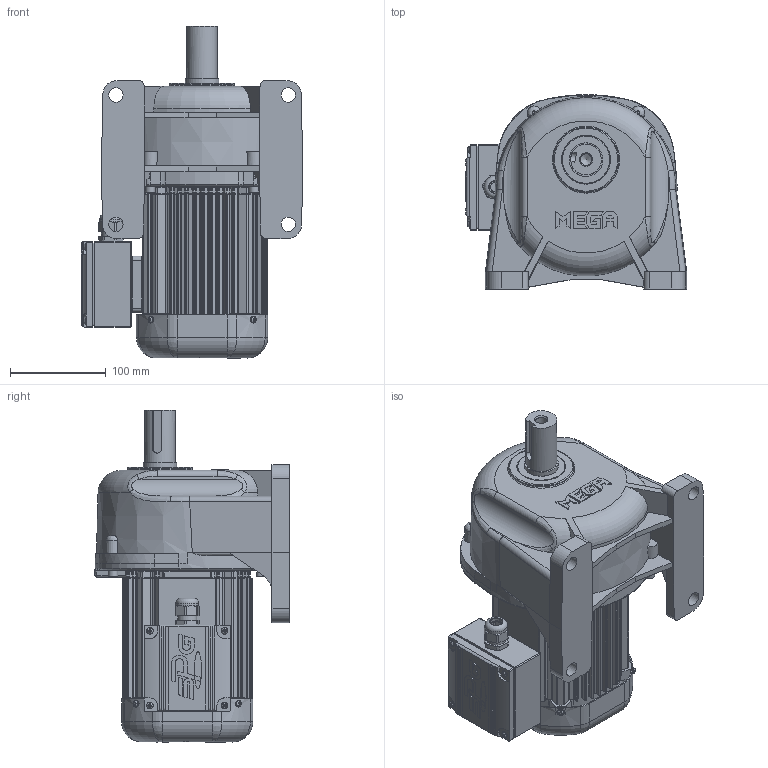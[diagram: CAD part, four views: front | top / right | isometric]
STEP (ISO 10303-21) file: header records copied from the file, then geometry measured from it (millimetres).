
FILE_DESCRIPTION(/* description */ (''),/* implementation_level */ '2;1');
FILE_NAME(/* name */ 'Z:\동력 3D 파일\PML135-(90~200)-MA(B)040[ ]L_(3D).stp',/* time_stamp */ '2021-08-17T16:50:15+09:00',/* author */ ('jaebok'),/* organization */ (''),/* preprocessor_version */ 'ST-DEVELOPER v18.1',/* originating_system */ 'Autodesk Inventor 2022',/* authorisation */ '');
FILE_SCHEMA (('AUTOMOTIVE_DESIGN { 1 0 10303 214 3 1 1 }'));
Length unit declared in the file: millimetre
Products named in the file (1): 부품6
Bounding box: 231 x 202.97 x 346.5 mm (x, y, z)
Volume: 2192277.1 mm3; surface area: 655853.9 mm2
Topology: 1 solids, 31 shells, 3240 faces, 8286 edges, 4967 vertices
Faces by surface type: plane 1055, cylinder 892, bspline 775, torus 293, cone 115, sphere 110
Full cylindrical faces by diameter (mm): 3.25 x1, 3.5 x4, 3.6 x4, 4 x21, 4.917 x4, 5 x19, 6 x9, 6.8 x4, 7 x12, 8 x1, 9.5 x4, 10 x5, 12 x1, 12.5 x1, 15 x5, 18 x1, 19 x1, 20 x2, 21 x1, 22 x1, 23.6 x1, 24 x1, 25 x1, 30 x2, 32 x2, 35 x2, 40 x2, 42 x2, 44 x1, 50 x2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
Entity records: 129791 total; most frequent: CARTESIAN_POINT 52932, ORIENTED_EDGE 16118, DIRECTION 14317, EDGE_CURVE 8059, AXIS2_PLACEMENT_3D 5709, VERTEX_POINT 4965, EDGE_LOOP 3428, FACE_OUTER_BOUND 3240
